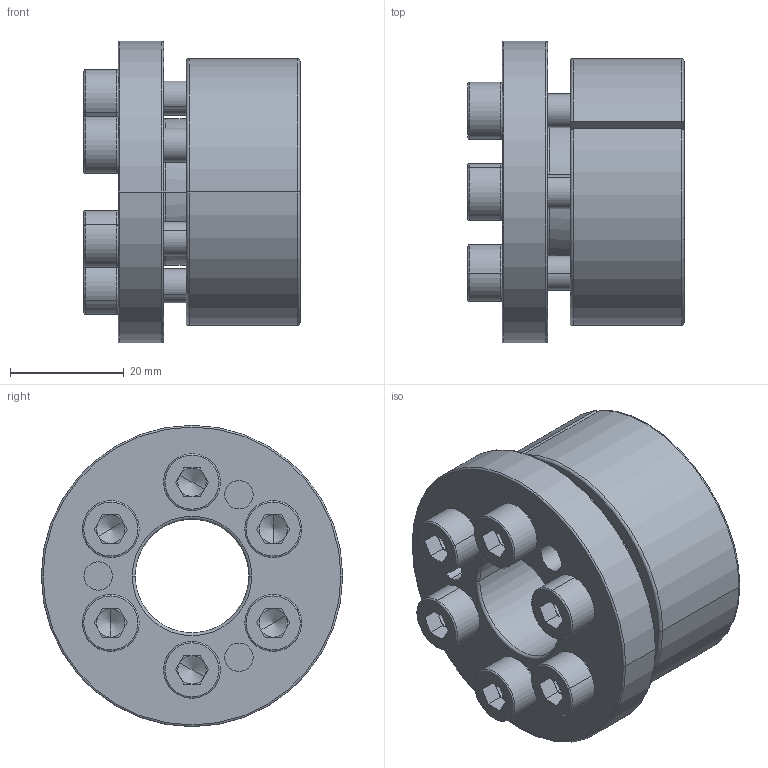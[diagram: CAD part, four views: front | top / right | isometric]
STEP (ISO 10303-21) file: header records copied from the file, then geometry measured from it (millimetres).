
FILE_DESCRIPTION (( 'STEP AP203' ), '1' );
FILE_NAME ('SAPL-B-20-47.STEP', '2013-07-23T02:18:44', ( 'MYCOM' ), ( '' ), 'SwSTEP 2.0', 'SolidWorks 2012', '' );
FILE_SCHEMA (( 'CONFIG_CONTROL_DESIGN' ));
Length unit declared in the file: millimetre
Products named in the file (1): SAPL-B-20-47
Bounding box: 38 x 53 x 53 mm (x, y, z)
Volume: 44729.1 mm3; surface area: 18197.5 mm2
Topology: 1 solids, 1 shells, 274 faces, 652 edges, 388 vertices
Faces by surface type: plane 104, cylinder 75, torus 65, cone 30
Entity records: 8034 total; most frequent: DIRECTION 1503, CARTESIAN_POINT 1433, ORIENTED_EDGE 1280, EDGE_CURVE 640, AXIS2_PLACEMENT_3D 618, VERTEX_POINT 388, CIRCLE 343, EDGE_LOOP 318
